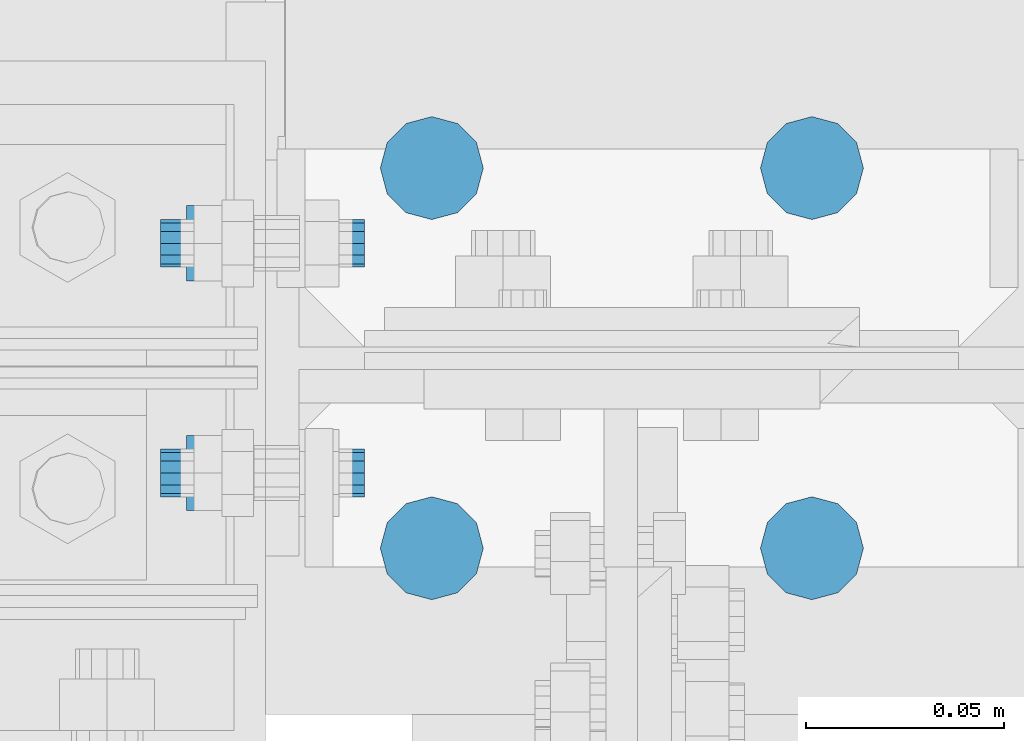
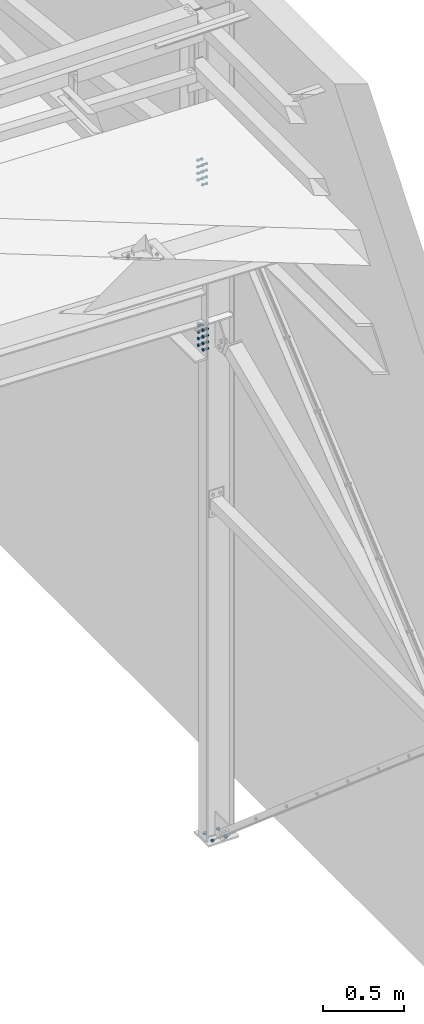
# One storey, part 350 of 3134: 3 mechanical fasteners, 1 element without a shape of its own.
"""IFC2X3 building model written with IfcOpenShell, lengths in millimetres."""

import ifcopenshell
import ifcopenshell.guid

model = None  # the IFC model being written
_history = None  # IfcOwnerHistory: only IFC2X3 demands one
_inside = {}  # id of a spatial element -> (the spatial element, [elements in it])
_under = {}  # id of a project, library or spatial element -> (it, [spatial elements below it])
_declared = {}  # id of a project -> (the project, [libraries it declares])
_typed = {}  # id of a type object -> (the type object, [elements of that type])
_made_of = {}  # id of a material, layer set ... -> (it, [elements and type objects made of it])


def new_model(schema):
    """Start an empty IFC model of exactly this schema.

    Asked for "IFC4X3", IfcOpenShell would pick the latest addendum, in which some entities
    have other attributes; the version numbers below select the first issue.
    IFC2X3 requires an IfcOwnerHistory on every rooted entity: one is made here for all.
    """
    global model, _history
    if schema == "IFC4X3":
        model = ifcopenshell.file(schema_version=(4, 3, 0, 0))
    else:
        model = ifcopenshell.file(schema=schema)
    _inside.clear()
    _under.clear()
    _declared.clear()
    _typed.clear()
    _made_of.clear()
    _history = None
    if model.schema == "IFC2X3":
        org = make("IfcOrganization", Name="unknown")
        user = make(
            "IfcPersonAndOrganization",
            ThePerson=make("IfcPerson", FamilyName="unknown"),
            TheOrganization=org,
        )
        app = make(
            "IfcApplication",
            ApplicationDeveloper=org,
            Version="unknown",
            ApplicationFullName="unknown",
            ApplicationIdentifier="unknown",
        )
        _history = make(
            "IfcOwnerHistory",
            OwningUser=user,
            OwningApplication=app,
            ChangeAction="ADDED",
            CreationDate=0,
        )
    return model


def make(cls, **values):
    """One entity of the class cls with the attributes given. An attribute that is None is left unset."""
    return model.create_entity(
        cls, **{name: value for name, value in values.items() if value is not None}
    )


def rooted(cls, **values):
    """An entity with a GlobalId (a new one), such as an element, a storey or a relation."""
    return make(cls, GlobalId=ifcopenshell.guid.new(), OwnerHistory=_history, **values)


def si_unit(unit_type, name, prefix=None):
    """IfcSIUnit, for example si_unit("LENGTHUNIT", "METRE", prefix="MILLI")."""
    return make("IfcSIUnit", UnitType=unit_type, Prefix=prefix, Name=name)


def assignment(units):
    """IfcUnitAssignment: the units of a project."""
    return None if units is None else make("IfcUnitAssignment", Units=units)


def point(xyz):
    """IfcCartesianPoint."""
    return None if xyz is None else make("IfcCartesianPoint", Coordinates=xyz)


def direction(xyz):
    """IfcDirection."""
    return None if xyz is None else make("IfcDirection", DirectionRatios=xyz)


def frame(location, z_axis=None, x_axis=None):
    """IfcAxis2Placement3D, a coordinate frame: its origin and axes. An axis left out is left unset."""
    return make(
        "IfcAxis2Placement3D",
        Location=point(location),
        Axis=direction(z_axis),
        RefDirection=direction(x_axis),
    )


def origin_with_axes():
    """The frame at (0, 0, 0) with the z axis (0, 0, 1) and the x axis (1, 0, 0) written out."""
    return frame((0.0, 0.0, 0.0), z_axis=(0.0, 0.0, 1.0), x_axis=(1.0, 0.0, 0.0))


def place(relative_to, where):
    """IfcLocalPlacement: puts the frame where relative to a parent placement (None: the world)."""
    return make(
        "IfcLocalPlacement", PlacementRelTo=relative_to, RelativePlacement=where
    )


def context(
    kind, dimensions, precision=None, world=None, true_north=None, identifier=None
):
    """IfcGeometricRepresentationContext, for example the 3D "Model" context."""
    return make(
        "IfcGeometricRepresentationContext",
        ContextIdentifier=identifier,
        ContextType=kind,
        CoordinateSpaceDimension=dimensions,
        Precision=precision,
        WorldCoordinateSystem=world,
        TrueNorth=true_north,
    )


def subcontext(parent, identifier, kind, view, scale=None):
    """IfcGeometricRepresentationSubContext, for example "Body" below "Model"."""
    return make(
        "IfcGeometricRepresentationSubContext",
        ContextIdentifier=identifier,
        ContextType=kind,
        ParentContext=parent,
        TargetScale=scale,
        TargetView=view,
    )


def project(units=None, contexts=None):
    """IfcProject with its units and contexts."""
    return rooted(
        "IfcProject",
        Name="project",
        RepresentationContexts=contexts,
        UnitsInContext=assignment(units),
    )


def spatial(cls, under=None, at=None, **own):
    """A site, building, storey or space (cls), placed at a placement, below another one or the project."""
    s = rooted(cls, ObjectPlacement=at, **own)
    if under is not None:
        _under.setdefault(under.id(), (under, []))[1].append(s)
    return s


def faces_of(points, faces, orient=None, outer=None):
    """IfcFace entities. A face is a list of loops; a loop is a list of indices into points, from 0.

    orient and outer hold one flag for each loop. By default every Orientation is true, the
    first loop of a face is its IfcFaceOuterBound and the others are IfcFaceBound.
    """
    made = []
    for i, loops in enumerate(faces):
        bounds = []
        for j, loop in enumerate(loops):
            is_outer = j == 0 if outer is None else outer[i][j]
            bounds.append(
                make(
                    "IfcFaceOuterBound" if is_outer else "IfcFaceBound",
                    Bound=make("IfcPolyLoop", Polygon=[points[k] for k in loop]),
                    Orientation=True if orient is None else orient[i][j],
                )
            )
        made.append(make("IfcFace", Bounds=bounds))
    return made


def faceted_brep(points, faces, orient=None, outer=None, voids=None):
    """IfcFacetedBrep: a solid bounded by flat faces; with voids (closed shells), ...WithVoids."""
    shared = [point(p) for p in points]
    hull = make("IfcClosedShell", CfsFaces=faces_of(shared, faces, orient, outer))
    if voids is None:
        return make("IfcFacetedBrep", Outer=hull)
    return make(
        "IfcFacetedBrepWithVoids",
        Outer=hull,
        Voids=[
            make(cls, CfsFaces=faces_of(shared, fs, o, b)) for cls, fs, o, b in voids
        ],
    )


def shape(context_of_items, identifier, shape_type, items):
    """IfcShapeRepresentation: the items that make up one representation, for example the "Body"."""
    return make(
        "IfcShapeRepresentation",
        ContextOfItems=context_of_items,
        RepresentationIdentifier=identifier,
        RepresentationType=shape_type,
        Items=items,
    )


def source(mapping_origin, context_of_items, identifier, shape_type, items):
    """IfcRepresentationMap: a shape defined once, which mapped items show again and again."""
    return make(
        "IfcRepresentationMap",
        MappingOrigin=mapping_origin,
        MappedRepresentation=shape(context_of_items, identifier, shape_type, items),
    )


def transform(
    local_origin,
    x_axis=None,
    y_axis=None,
    z_axis=None,
    scale=None,
    scale2=None,
    scale3=None,
    uniform=True,
):
    """IfcCartesianTransformationOperator3D, or its non-uniform kind. x_axis, y_axis, z_axis: its Axis1, 2, 3."""
    if uniform:
        return make(
            "IfcCartesianTransformationOperator3D",
            Axis1=direction(x_axis),
            Axis2=direction(y_axis),
            LocalOrigin=point(local_origin),
            Scale=scale,
            Axis3=direction(z_axis),
        )
    return make(
        "IfcCartesianTransformationOperator3DnonUniform",
        Axis1=direction(x_axis),
        Axis2=direction(y_axis),
        LocalOrigin=point(local_origin),
        Scale=scale,
        Axis3=direction(z_axis),
        Scale2=scale2,
        Scale3=scale3,
    )


def mapped(mapping_source, mapping_target):
    """IfcMappedItem: shows the shape of a source again, moved by a transform."""
    return make(
        "IfcMappedItem", MappingSource=mapping_source, MappingTarget=mapping_target
    )


def material(Name=None, Category=None):
    """IfcMaterial."""
    return make("IfcMaterial", Name=Name, Category=Category)


def made_of(thing, what):
    """Note that an element or type object is made of a material, layer set ...; save() writes the relation."""
    if what is not None:
        _made_of.setdefault(what.id(), (what, []))[1].append(thing)
    return thing


def type_object(cls, material=None, **own):
    """A type object (cls), such as IfcWallType, which elements share."""
    return made_of(rooted(cls, **own), material)


def element(
    cls,
    number,
    at=None,
    inside=None,
    cuts=None,
    type_object=None,
    material=None,
    context=None,
    identifier="Body",
    shape_type=None,
    held_by="IfcProductDefinitionShape",
    body=None,
    shapes=None,
    **own,
):
    """One element of the class cls, such as IfcWall. Its Tag is "e" and its number.

    at: its placement. inside: the storey or other place that contains it. cuts: it is an
    opening in that element (IfcRelVoidsElement). A single representation is given by context,
    identifier, shape_type and body (its items); several are given by shapes. held_by: the class
    of the entity that holds the representations. save() writes the other relations.
    """
    e = rooted(cls, Tag="e%d" % number, ObjectPlacement=at, **own)
    if body is not None:
        shapes = [shape(context, identifier, shape_type, body)]
    if shapes is not None:
        e.Representation = make(held_by, Representations=shapes)
    if inside is not None:
        _inside.setdefault(inside.id(), (inside, []))[1].append(e)
    if cuts is not None:
        rooted(
            "IfcRelVoidsElement", RelatingBuildingElement=cuts, RelatedOpeningElement=e
        )
    if type_object is not None:
        _typed.setdefault(type_object.id(), (type_object, []))[1].append(e)
    return made_of(e, material)


def aggregate(whole, parts):
    """IfcRelAggregates: a whole, such as a stair, and the parts it consists of."""
    return rooted("IfcRelAggregates", RelatingObject=whole, RelatedObjects=parts)


def save(model, path):
    """Write the relations noted so far, then the file.

    IfcRelAggregates (storeys below a building ...), IfcRelContainedInSpatialStructure (elements
    in a storey), IfcRelDefinesByType, IfcRelAssociatesMaterial and IfcRelDeclares: one each for
    every whole, place, type object, material and project.
    """
    for whole, parts in _under.values():
        aggregate(whole, parts)
    for where, things in _inside.values():
        rooted(
            "IfcRelContainedInSpatialStructure",
            RelatedElements=things,
            RelatingStructure=where,
        )
    for kind, things in _typed.values():
        rooted("IfcRelDefinesByType", RelatedObjects=things, RelatingType=kind)
    for what, things in _made_of.values():
        rooted("IfcRelAssociatesMaterial", RelatedObjects=things, RelatingMaterial=what)
    for by, libraries in _declared.values():
        rooted("IfcRelDeclares", RelatingContext=by, RelatedDefinitions=libraries)
    model.write(path)


model = new_model("IFC2X3")

# Units and contexts
model_context = context("Model", 3, precision=1e-05, world=origin_with_axes())
body_context = subcontext(model_context, "Body", "Model", "MODEL_VIEW")
ifc_project = project(units=[si_unit("LENGTHUNIT", "METRE", prefix="MILLI"), si_unit("AREAUNIT", "SQUARE_METRE"), si_unit("VOLUMEUNIT", "CUBIC_METRE"), si_unit("MASSUNIT", "GRAM", prefix="KILO"), si_unit("TIMEUNIT", "SECOND"), si_unit("PLANEANGLEUNIT", "RADIAN"), si_unit("SOLIDANGLEUNIT", "STERADIAN"), si_unit("THERMODYNAMICTEMPERATUREUNIT", "DEGREE_CELSIUS"), si_unit("LUMINOUSINTENSITYUNIT", "LUMEN")], contexts=[model_context])

# Site, building, storey
site_placement = place(None, origin_with_axes())
site = spatial("IfcSite", under=ifc_project, at=site_placement, CompositionType="ELEMENT")
building_placement = place(site_placement, origin_with_axes())
building = spatial("IfcBuilding", under=site, at=building_placement, Name="Undefined", CompositionType="ELEMENT")
storey_placement = place(building_placement, origin_with_axes())
storey = spatial("IfcBuildingStorey", under=building, at=storey_placement, Name="Undefined", CompositionType="ELEMENT", Elevation=0.0)

# Assembly, mechanical fasteners
assembly_placement = place(storey_placement, origin_with_axes())
assembly = element("IfcElementAssembly", 1, at=assembly_placement, inside=storey, Name="IPE200", AssemblyPlace="NOTDEFINED", PredefinedType="RIGID_FRAME")
ifc_material = material(Name="8.8")
mechanical_fastener_type = type_object("IfcMechanicalFastenerType", Name="Bolt assembly")
shared_shape_1 = source(origin_with_axes(), body_context, "Body", "Brep", [
    faceted_brep([(13.0, 0.0, 0.0), (11.2583302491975, 0.0, 6.50000000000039), (6.49999999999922, 0.0, 11.2583302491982), (-1.34723677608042e-12, 0.0, 13.0), (-6.50000000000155, 0.0, 11.2583302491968), (-11.2583302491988, 0.0, 6.49999999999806), (-13.0, 0.0, -2.69447355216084e-12), (-11.2583302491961, 0.0, -6.50000000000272), (-6.4999999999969, 0.0, -11.2583302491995), (4.02727742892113e-12, 0.0, -13.0), (6.50000000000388, 0.0, -11.2583302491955), (11.2583302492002, 0.0, -6.49999999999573), (11.2583302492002, 12.1, -6.49999999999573), (6.50000000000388, 12.1, -11.2583302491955), (4.02727742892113e-12, 12.1, -13.0), (-6.4999999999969, 12.1, -11.2583302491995), (-11.2583302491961, 12.1, -6.50000000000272), (-13.0, 12.1, -2.69447355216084e-12), (-11.2583302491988, 12.1, 6.49999999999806), (-6.50000000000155, 12.1, 11.2583302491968), (-1.34723677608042e-12, 12.1, 13.0), (6.49999999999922, 12.1, 11.2583302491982), (11.2583302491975, 12.1, 6.50000000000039), (13.0, 12.1, 0.0)], [[[0, 1, 2, 3, 4, 5, 6, 7, 8, 9, 10, 11]], [[12, 13, 14, 15, 16, 17, 18, 19, 20, 21, 22, 23]], [[0, 23, 22, 1]], [[1, 22, 21, 2]], [[2, 21, 20, 3]], [[3, 20, 19, 4]], [[4, 19, 18, 5]], [[5, 18, 17, 6]], [[6, 17, 16, 7]], [[7, 16, 15, 8]], [[8, 15, 14, 9]], [[9, 14, 13, 10]], [[10, 13, 12, 11]], [[11, 12, 23, 0]]]),
])
mechanical_fastener_1_placement = place(assembly_placement, frame((79177.0, 13550.0, -400.0), z_axis=(0.0, -1.0, 0.0), x_axis=(1.0, 0.0, 0.0)))
mechanical_fastener_1 = element("IfcMechanicalFastener", 2, at=mechanical_fastener_1_placement, type_object=mechanical_fastener_type, material=ifc_material, Name="Bolt assembly", NominalDiameter=24.0, NominalLength=12.0, context=body_context, shape_type="MappedRepresentation", body=[
    mapped(shared_shape_1, transform((0.0, 0.0, -48.0))),
    mapped(shared_shape_1, transform((96.0, 0.0, -48.0))),
    mapped(shared_shape_1, transform((0.0, 0.0, 48.0))),
    mapped(shared_shape_1, transform((96.0, 0.0, 48.0))),
])
shared_shape_2 = source(origin_with_axes(), body_context, "Body", "Brep", [
    faceted_brep([(10.9696551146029, -16.5, 0.0), (5.48482755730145, -16.5, 9.5), (-5.48482755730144, -16.5, 9.5), (-10.9696551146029, -16.5, 1.34339530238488e-15), (-5.48482755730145, -16.5, -9.5), (5.48482755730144, -16.5, -9.50000000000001), (5.48482755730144, -8.5, -9.50000000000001), (-5.48482755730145, -8.5, -9.5), (-10.9696551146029, -8.5, 1.34339530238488e-15), (-5.48482755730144, -8.5, 9.5), (5.48482755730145, -8.5, 9.5), (10.9696551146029, -8.5, 0.0), (6.0, -8.5, 0.0), (5.19615242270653, -8.5, 3.00000000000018), (2.99999999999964, -8.5, 5.19615242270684), (-6.21801588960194e-13, -8.5, 6.0), (-3.00000000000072, -8.5, 5.19615242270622), (-5.19615242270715, -8.5, 2.9999999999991), (-6.0, -8.5, -1.24360317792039e-12), (-5.19615242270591, -8.5, -3.00000000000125), (-2.99999999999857, -8.5, -5.19615242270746), (1.85874342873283e-12, -8.5, -6.0), (3.00000000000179, -8.5, -5.1961524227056), (5.19615242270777, -8.5, -2.99999999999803), (5.19615242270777, 26.5, -2.99999999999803), (3.00000000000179, 26.5, -5.1961524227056), (1.85874342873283e-12, 26.5, -6.0), (-2.99999999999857, 26.5, -5.19615242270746), (-5.19615242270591, 26.5, -3.00000000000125), (-6.0, 26.5, -1.24360317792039e-12), (-5.19615242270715, 26.5, 2.9999999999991), (-3.00000000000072, 26.5, 5.19615242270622), (-6.21801588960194e-13, 26.5, 6.0), (2.99999999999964, 26.5, 5.19615242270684), (5.19615242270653, 26.5, 3.00000000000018), (6.0, 26.5, 0.0), (10.9696551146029, 10.0, 0.0), (5.48482755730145, 10.0, 9.5), (-5.48482755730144, 10.0, 9.5), (-10.9696551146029, 10.0, 1.34339530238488e-15), (-5.48482755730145, 10.0, -9.5), (5.48482755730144, 10.0, -9.50000000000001), (5.48482755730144, 20.0, -9.50000000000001), (-5.48482755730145, 20.0, -9.5), (-10.9696551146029, 20.0, 1.34339530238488e-15), (-5.48482755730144, 20.0, 9.5), (5.48482755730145, 20.0, 9.5), (10.9696551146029, 20.0, 0.0)], [[[0, 1, 2, 3, 4, 5]], [[6, 7, 8, 9, 10, 11]], [[0, 11, 10, 1]], [[1, 10, 9, 2]], [[2, 9, 8, 3]], [[3, 8, 7, 4]], [[4, 7, 6, 5]], [[5, 6, 11, 0]], [[12, 13, 14, 15, 16, 17, 18, 19, 20, 21, 22, 23]], [[24, 25, 26, 27, 28, 29, 30, 31, 32, 33, 34, 35]], [[12, 35, 34, 13]], [[13, 34, 33, 14]], [[14, 33, 32, 15]], [[15, 32, 31, 16]], [[16, 31, 30, 17]], [[17, 30, 29, 18]], [[18, 29, 28, 19]], [[19, 28, 27, 20]], [[20, 27, 26, 21]], [[21, 26, 25, 22]], [[22, 25, 24, 23]], [[23, 24, 35, 12]], [[36, 37, 38, 39, 40, 41]], [[42, 43, 44, 45, 46, 47]], [[36, 47, 46, 37]], [[37, 46, 45, 38]], [[38, 45, 44, 39]], [[39, 44, 43, 40]], [[40, 43, 42, 41]], [[41, 42, 47, 36]]]),
    faceted_brep([(7.0, -0.1, 0.0), (6.06217782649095, -0.1, 3.50000000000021), (3.49999999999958, -0.1, 6.06217782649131), (-7.25435187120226e-13, -0.1, 7.0), (-3.50000000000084, -0.1, 6.06217782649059), (-6.06217782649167, -0.1, 3.49999999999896), (-7.0, -0.1, -1.45087037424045e-12), (-6.06217782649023, -0.1, -3.50000000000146), (-3.49999999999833, -0.1, -6.06217782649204), (2.1685340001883e-12, -0.1, -7.0), (3.50000000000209, -0.1, -6.06217782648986), (6.0621778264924, -0.1, -3.4999999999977), (6.0621778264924, 10.0, -3.4999999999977), (3.50000000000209, 10.0, -6.06217782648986), (2.1685340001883e-12, 10.0, -7.0), (-3.49999999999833, 10.0, -6.06217782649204), (-6.06217782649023, 10.0, -3.50000000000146), (-7.0, 10.0, -1.45087037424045e-12), (-6.06217782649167, 10.0, 3.49999999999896), (-3.50000000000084, 10.0, 6.06217782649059), (-7.25435187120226e-13, 10.0, 7.0), (3.49999999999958, 10.0, 6.06217782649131), (6.06217782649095, 10.0, 3.50000000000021), (7.0, 10.0, 0.0), (7.0, -8.4, 0.0), (6.06217782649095, -8.4, 3.50000000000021), (3.49999999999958, -8.4, 6.06217782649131), (-7.25435187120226e-13, -8.4, 7.0), (-3.50000000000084, -8.4, 6.06217782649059), (-6.06217782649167, -8.4, 3.49999999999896), (-7.0, -8.4, -1.45087037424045e-12), (-6.06217782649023, -8.4, -3.50000000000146), (-3.49999999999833, -8.4, -6.06217782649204), (2.1685340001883e-12, -8.4, -7.0), (3.50000000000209, -8.4, -6.06217782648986), (6.0621778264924, -8.4, -3.4999999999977), (6.0621778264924, 0.0999999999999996, -3.4999999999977), (3.50000000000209, 0.0999999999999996, -6.06217782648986), (2.1685340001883e-12, 0.0999999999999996, -7.0), (-3.49999999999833, 0.0999999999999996, -6.06217782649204), (-6.06217782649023, 0.0999999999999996, -3.50000000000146), (-7.0, 0.0999999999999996, -1.45087037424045e-12), (-6.06217782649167, 0.0999999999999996, 3.49999999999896), (-3.50000000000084, 0.0999999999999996, 6.06217782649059), (-7.25435187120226e-13, 0.0999999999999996, 7.0), (3.49999999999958, 0.0999999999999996, 6.06217782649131), (6.06217782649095, 0.0999999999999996, 3.50000000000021), (7.0, 0.0999999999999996, 0.0)], [[[0, 1, 2, 3, 4, 5, 6, 7, 8, 9, 10, 11]], [[12, 13, 14, 15, 16, 17, 18, 19, 20, 21, 22, 23]], [[0, 23, 22, 1]], [[1, 22, 21, 2]], [[2, 21, 20, 3]], [[3, 20, 19, 4]], [[4, 19, 18, 5]], [[5, 18, 17, 6]], [[6, 17, 16, 7]], [[7, 16, 15, 8]], [[8, 15, 14, 9]], [[9, 14, 13, 10]], [[10, 13, 12, 11]], [[11, 12, 23, 0]], [[24, 25, 26, 27, 28, 29, 30, 31, 32, 33, 34, 35]], [[36, 37, 38, 39, 40, 41, 42, 43, 44, 45, 46, 47]], [[24, 47, 46, 25]], [[25, 46, 45, 26]], [[26, 45, 44, 27]], [[27, 44, 43, 28]], [[28, 43, 42, 29]], [[29, 42, 41, 30]], [[30, 41, 40, 31]], [[31, 40, 39, 32]], [[32, 39, 38, 33]], [[33, 38, 37, 34]], [[34, 37, 36, 35]], [[35, 36, 47, 24]]]),
])
mechanical_fastener_2_placement = place(assembly_placement, frame((79135.0, 13550.0, 4728.722486), z_axis=(0.0, 1.0, 0.0), x_axis=(0.0, 0.0, -1.0)))
mechanical_fastener_2 = element("IfcMechanicalFastener", 3, at=mechanical_fastener_2_placement, type_object=mechanical_fastener_type, material=ifc_material, Name="Bolt assembly", NominalDiameter=12.0, NominalLength=35.0, context=body_context, shape_type="MappedRepresentation", body=[
    mapped(shared_shape_2, transform((-2.63753463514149e-11, 0.0, -28.9999999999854))),
    mapped(shared_shape_2, transform((50.0, 0.0, -29.0))),
    mapped(shared_shape_2, transform((100.0, 0.0, -29.0))),
    mapped(shared_shape_2, transform((150.0, 0.0, -29.0))),
    mapped(shared_shape_2, transform((2.63753463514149e-11, 0.0, 28.9999999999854))),
    mapped(shared_shape_2, transform((50.0, 0.0, 29.0))),
    mapped(shared_shape_2, transform((100.0, 0.0, 29.0))),
    mapped(shared_shape_2, transform((150.0, 0.0, 29.0))),
])
shared_shape_3 = source(origin_with_axes(), body_context, "Body", "Brep", [
    faceted_brep([(10.9696551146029, -18.0, 0.0), (5.48482755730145, -18.0, 9.5), (-5.48482755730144, -18.0, 9.5), (-10.9696551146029, -18.0, 1.34339530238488e-15), (-5.48482755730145, -18.0, -9.5), (5.48482755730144, -18.0, -9.50000000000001), (5.48482755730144, -10.0, -9.50000000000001), (-5.48482755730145, -10.0, -9.5), (-10.9696551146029, -10.0, 1.34339530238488e-15), (-5.48482755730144, -10.0, 9.5), (5.48482755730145, -10.0, 9.5), (10.9696551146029, -10.0, 0.0), (6.0, -10.0, 0.0), (5.19615242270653, -10.0, 3.00000000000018), (2.99999999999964, -10.0, 5.19615242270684), (-6.21801588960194e-13, -10.0, 6.0), (-3.00000000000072, -10.0, 5.19615242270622), (-5.19615242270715, -10.0, 2.9999999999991), (-6.0, -10.0, -1.24360317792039e-12), (-5.19615242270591, -10.0, -3.00000000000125), (-2.99999999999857, -10.0, -5.19615242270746), (1.85874342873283e-12, -10.0, -6.0), (3.00000000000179, -10.0, -5.1961524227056), (5.19615242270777, -10.0, -2.99999999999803), (5.19615242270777, 24.9999999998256, -2.99999999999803), (3.00000000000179, 24.9999999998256, -5.1961524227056), (1.85874342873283e-12, 24.9999999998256, -6.0), (-2.99999999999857, 24.9999999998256, -5.19615242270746), (-5.19615242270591, 24.9999999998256, -3.00000000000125), (-6.0, 24.9999999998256, -1.24360317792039e-12), (-5.19615242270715, 24.9999999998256, 2.9999999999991), (-3.00000000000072, 24.9999999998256, 5.19615242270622), (-6.21801588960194e-13, 24.9999999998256, 6.0), (2.99999999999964, 24.9999999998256, 5.19615242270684), (5.19615242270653, 24.9999999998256, 3.00000000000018), (6.0, 24.9999999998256, 0.0), (10.9696551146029, 8.5, 0.0), (5.48482755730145, 8.5, 9.5), (-5.48482755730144, 8.5, 9.5), (-10.9696551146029, 8.5, 1.34339530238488e-15), (-5.48482755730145, 8.5, -9.5), (5.48482755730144, 8.5, -9.50000000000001), (5.48482755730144, 18.5, -9.50000000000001), (-5.48482755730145, 18.5, -9.5), (-10.9696551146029, 18.5, 1.34339530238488e-15), (-5.48482755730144, 18.5, 9.5), (5.48482755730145, 18.5, 9.5), (10.9696551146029, 18.5, 0.0)], [[[0, 1, 2, 3, 4, 5]], [[6, 7, 8, 9, 10, 11]], [[0, 11, 10, 1]], [[1, 10, 9, 2]], [[2, 9, 8, 3]], [[3, 8, 7, 4]], [[4, 7, 6, 5]], [[5, 6, 11, 0]], [[12, 13, 14, 15, 16, 17, 18, 19, 20, 21, 22, 23]], [[24, 25, 26, 27, 28, 29, 30, 31, 32, 33, 34, 35]], [[12, 35, 34, 13]], [[13, 34, 33, 14]], [[14, 33, 32, 15]], [[15, 32, 31, 16]], [[16, 31, 30, 17]], [[17, 30, 29, 18]], [[18, 29, 28, 19]], [[19, 28, 27, 20]], [[20, 27, 26, 21]], [[21, 26, 25, 22]], [[22, 25, 24, 23]], [[23, 24, 35, 12]], [[36, 37, 38, 39, 40, 41]], [[42, 43, 44, 45, 46, 47]], [[36, 47, 46, 37]], [[37, 46, 45, 38]], [[38, 45, 44, 39]], [[39, 44, 43, 40]], [[40, 43, 42, 41]], [[41, 42, 47, 36]]]),
    faceted_brep([(7.0, -9.89999913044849, 0.0), (6.06217782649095, -9.89999913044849, 3.50000000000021), (3.49999999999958, -9.89999913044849, 6.06217782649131), (-7.25435187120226e-13, -9.89999913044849, 7.0), (-3.50000000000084, -9.89999913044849, 6.06217782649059), (-6.06217782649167, -9.89999913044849, 3.49999999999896), (-7.0, -9.89999913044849, -1.45087037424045e-12), (-6.06217782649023, -9.89999913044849, -3.50000000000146), (-3.49999999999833, -9.89999913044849, -6.06217782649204), (2.1685340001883e-12, -9.89999913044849, -7.0), (3.50000000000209, -9.89999913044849, -6.06217782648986), (6.0621778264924, -9.89999913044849, -3.4999999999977), (6.0621778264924, 0.0999999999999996, -3.4999999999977), (3.50000000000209, 0.0999999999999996, -6.06217782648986), (2.1685340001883e-12, 0.0999999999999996, -7.0), (-3.49999999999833, 0.0999999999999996, -6.06217782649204), (-6.06217782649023, 0.0999999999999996, -3.50000000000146), (-7.0, 0.0999999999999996, -1.45087037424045e-12), (-6.06217782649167, 0.0999999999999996, 3.49999999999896), (-3.50000000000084, 0.0999999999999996, 6.06217782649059), (-7.25435187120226e-13, 0.0999999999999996, 7.0), (3.49999999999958, 0.0999999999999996, 6.06217782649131), (6.06217782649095, 0.0999999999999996, 3.50000000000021), (7.0, 0.0999999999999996, 0.0), (7.0, -0.1, 0.0), (6.06217782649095, -0.1, 3.50000000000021), (3.49999999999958, -0.1, 6.06217782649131), (-7.25435187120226e-13, -0.1, 7.0), (-3.50000000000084, -0.1, 6.06217782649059), (-6.06217782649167, -0.1, 3.49999999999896), (-7.0, -0.1, -1.45087037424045e-12), (-6.06217782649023, -0.1, -3.50000000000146), (-3.49999999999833, -0.1, -6.06217782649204), (2.1685340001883e-12, -0.1, -7.0), (3.50000000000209, -0.1, -6.06217782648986), (6.0621778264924, -0.1, -3.4999999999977), (6.0621778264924, 8.5, -3.4999999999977), (3.50000000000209, 8.5, -6.06217782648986), (2.1685340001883e-12, 8.5, -7.0), (-3.49999999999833, 8.5, -6.06217782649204), (-6.06217782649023, 8.5, -3.50000000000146), (-7.0, 8.5, -1.45087037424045e-12), (-6.06217782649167, 8.5, 3.49999999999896), (-3.50000000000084, 8.5, 6.06217782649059), (-7.25435187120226e-13, 8.5, 7.0), (3.49999999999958, 8.5, 6.06217782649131), (6.06217782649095, 8.5, 3.50000000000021), (7.0, 8.5, 0.0)], [[[0, 1, 2, 3, 4, 5, 6, 7, 8, 9, 10, 11]], [[12, 13, 14, 15, 16, 17, 18, 19, 20, 21, 22, 23]], [[0, 23, 22, 1]], [[1, 22, 21, 2]], [[2, 21, 20, 3]], [[3, 20, 19, 4]], [[4, 19, 18, 5]], [[5, 18, 17, 6]], [[6, 17, 16, 7]], [[7, 16, 15, 8]], [[8, 15, 14, 9]], [[9, 14, 13, 10]], [[10, 13, 12, 11]], [[11, 12, 23, 0]], [[24, 25, 26, 27, 28, 29, 30, 31, 32, 33, 34, 35]], [[36, 37, 38, 39, 40, 41, 42, 43, 44, 45, 46, 47]], [[24, 47, 46, 25]], [[25, 46, 45, 26]], [[26, 45, 44, 27]], [[27, 44, 43, 28]], [[28, 43, 42, 29]], [[29, 42, 41, 30]], [[30, 41, 40, 31]], [[31, 40, 39, 32]], [[32, 39, 38, 33]], [[33, 38, 37, 34]], [[34, 37, 36, 35]], [[35, 36, 47, 24]]]),
])
mechanical_fastener_3_placement = place(assembly_placement, frame((79135.0, 13550.0, 3327.964809), z_axis=(0.0, 1.0, 0.0), x_axis=(0.0, 0.0, 1.0)))
mechanical_fastener_3 = element("IfcMechanicalFastener", 4, at=mechanical_fastener_3_placement, type_object=mechanical_fastener_type, material=ifc_material, Name="Bolt assembly", NominalDiameter=12.0, NominalLength=35.0, context=body_context, shape_type="MappedRepresentation", body=[
    mapped(shared_shape_3, transform((-2.63753463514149e-11, 0.0, -28.9999999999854))),
    mapped(shared_shape_3, transform((50.0, 0.0, -29.0))),
    mapped(shared_shape_3, transform((100.0, 0.0, -29.0))),
    mapped(shared_shape_3, transform((150.0, 0.0, -29.0))),
    mapped(shared_shape_3, transform((2.63753463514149e-11, 0.0, 28.9999999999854))),
    mapped(shared_shape_3, transform((50.0, 0.0, 29.0))),
    mapped(shared_shape_3, transform((100.0, 0.0, 29.0))),
    mapped(shared_shape_3, transform((150.0, 0.0, 29.0))),
])
aggregate(assembly, [mechanical_fastener_3, mechanical_fastener_2, mechanical_fastener_1])

save(model, "model.ifc")
